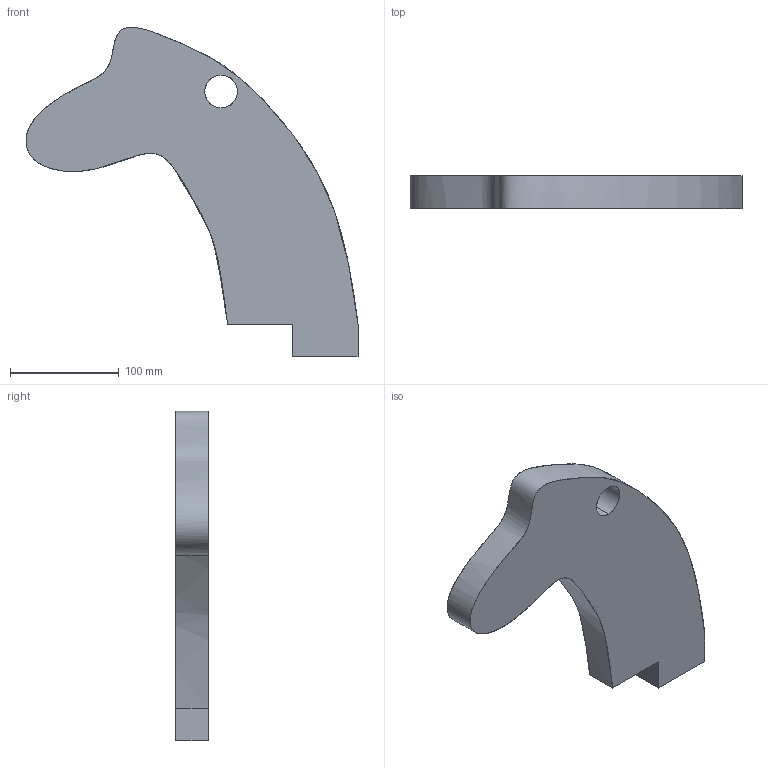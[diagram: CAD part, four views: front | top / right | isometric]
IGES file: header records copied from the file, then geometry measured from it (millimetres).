
Start section: SolidWorks IGES file using analytic representation for surfaces
Global section: file name: C:\Users\WZL\Desktop\標撿\seeed\20240518\鎮芛.IGS; native system: SolidWorks 2016; preprocessor: SolidWorks 2016; author: WZL; date: 240519.110725; units: millimetre
Bounding box: 305.62 x 30 x 303.23 mm (x, y, z)
Surface area: 113207.1 mm2 (no closed solid volume)
Topology: 0 solids, 0 shells, 9 faces, 464 edges, 464 vertices
Faces by surface type: bspline 7, revolution 2
